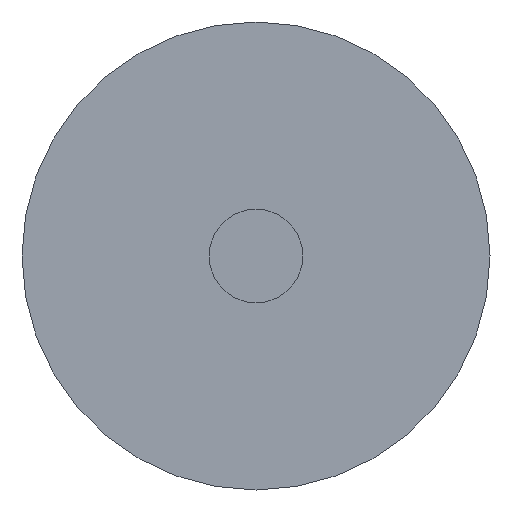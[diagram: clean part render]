
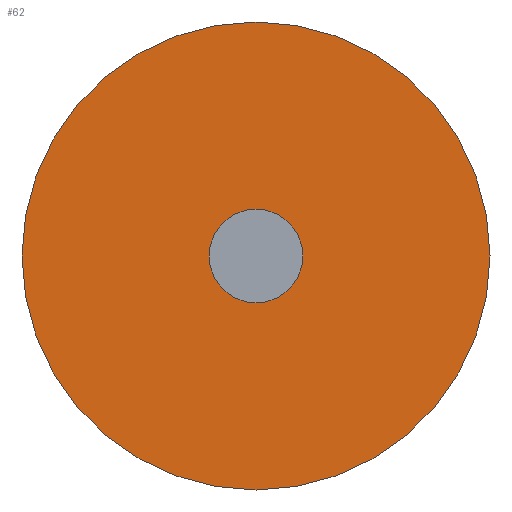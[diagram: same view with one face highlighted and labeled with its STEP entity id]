
A CAD part, front view. The second image highlights one B-rep face of the part: STEP entity #62.
In plain terms, the highlighted planar face has unit normal (0, -1, 0).
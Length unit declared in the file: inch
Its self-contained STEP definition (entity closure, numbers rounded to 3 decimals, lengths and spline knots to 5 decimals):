
#21 = VERTEX_POINT ( 'NONE', #79 ) ;
#25 = EDGE_CURVE ( 'NONE', #21, #26, #118, .T. ) ;
#26 = VERTEX_POINT ( 'NONE', #113 ) ;
#31 = ORIENTED_EDGE ( 'NONE', *, *, #46, .F. ) ;
#32 = EDGE_LOOP ( 'NONE', ( #38, #37 ) ) ;
#37 = ORIENTED_EDGE ( 'NONE', *, *, #25, .F. ) ;
#38 = ORIENTED_EDGE ( 'NONE', *, *, #39, .F. ) ;
#39 = EDGE_CURVE ( 'NONE', #26, #21, #171, .T. ) ;
#43 = VERTEX_POINT ( 'NONE', #175 ) ;
#46 = EDGE_CURVE ( 'NONE', #43, #59, #209, .T. ) ;
#54 = EDGE_CURVE ( 'NONE', #59, #43, #162, .T. ) ;
#59 = VERTEX_POINT ( 'NONE', #153 ) ;
#62 = ADVANCED_FACE ( 'NONE', ( #148, #147 ), #146, .F. ) ;
#63 = EDGE_LOOP ( 'NONE', ( #64, #31 ) ) ;
#64 = ORIENTED_EDGE ( 'NONE', *, *, #54, .F. ) ;
#79 = CARTESIAN_POINT ( 'NONE',  ( 0., 0., -0.05 ) ) ;
#113 = CARTESIAN_POINT ( 'NONE',  ( 0., 0., 0.05 ) ) ;
#114 = DIRECTION ( 'NONE',  ( 0., 0., 1. ) ) ;
#115 = DIRECTION ( 'NONE',  ( 0., -1., 0. ) ) ;
#116 = CARTESIAN_POINT ( 'NONE',  ( 0., 0., 0. ) ) ;
#117 = AXIS2_PLACEMENT_3D ( 'NONE', #116, #115, #114 ) ;
#118 = CIRCLE ( 'NONE', #117, 0.05 ) ;
#141 = DIRECTION ( 'NONE',  ( 0., 0., 1. ) ) ;
#142 = DIRECTION ( 'NONE',  ( 0., 1., 0. ) ) ;
#143 = AXIS2_PLACEMENT_3D ( 'NONE', #145, #142, #141 ) ;
#145 = CARTESIAN_POINT ( 'NONE',  ( 0., 0., 0. ) ) ;
#146 = PLANE ( 'NONE',  #143 ) ;
#147 = FACE_BOUND ( 'NONE', #32, .T. ) ;
#148 = FACE_OUTER_BOUND ( 'NONE', #63, .T. ) ;
#153 = CARTESIAN_POINT ( 'NONE',  ( 0., 0., -0.25 ) ) ;
#158 = DIRECTION ( 'NONE',  ( 0., 0., 1. ) ) ;
#159 = DIRECTION ( 'NONE',  ( 0., 1., 0. ) ) ;
#160 = CARTESIAN_POINT ( 'NONE',  ( 0., 0., 0. ) ) ;
#161 = AXIS2_PLACEMENT_3D ( 'NONE', #160, #159, #158 ) ;
#162 = CIRCLE ( 'NONE', #161, 0.25 ) ;
#167 = DIRECTION ( 'NONE',  ( 0., 0., 1. ) ) ;
#168 = DIRECTION ( 'NONE',  ( 0., -1., 0. ) ) ;
#169 = CARTESIAN_POINT ( 'NONE',  ( 0., 0., 0. ) ) ;
#170 = AXIS2_PLACEMENT_3D ( 'NONE', #169, #168, #167 ) ;
#171 = CIRCLE ( 'NONE', #170, 0.05 ) ;
#175 = CARTESIAN_POINT ( 'NONE',  ( 0., 0., 0.25 ) ) ;
#201 = DIRECTION ( 'NONE',  ( 0., 0., 1. ) ) ;
#202 = DIRECTION ( 'NONE',  ( 0., 1., 0. ) ) ;
#203 = CARTESIAN_POINT ( 'NONE',  ( 0., 0., 0. ) ) ;
#204 = AXIS2_PLACEMENT_3D ( 'NONE', #203, #202, #201 ) ;
#209 = CIRCLE ( 'NONE', #204, 0.25 ) ;
